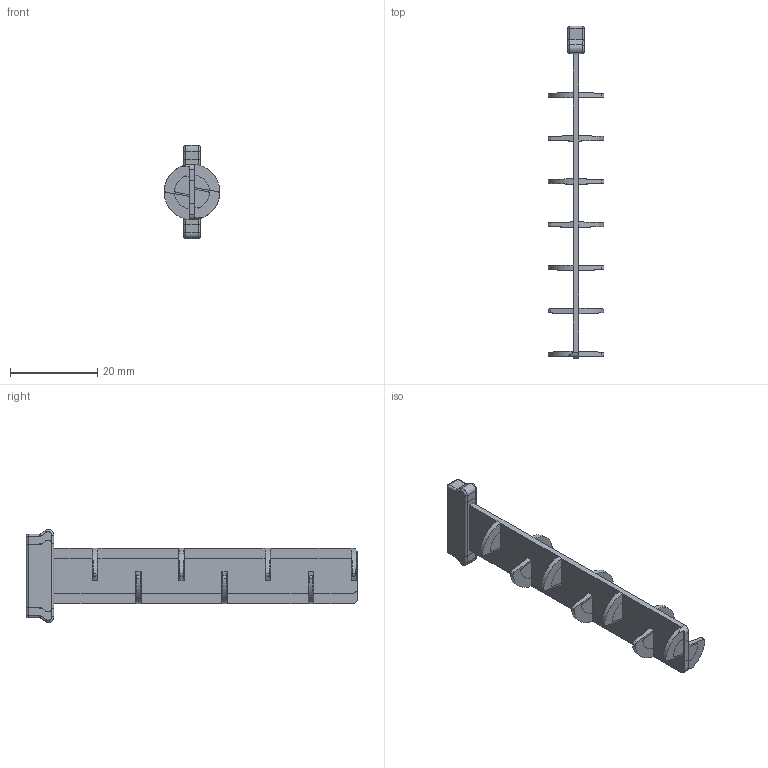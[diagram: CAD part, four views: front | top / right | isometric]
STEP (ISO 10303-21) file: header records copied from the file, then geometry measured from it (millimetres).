
FILE_DESCRIPTION((''),'2;1');
FILE_NAME('ALL_WATER_BAFFLE_ASM','2007-09-24T',('glafferty'),('Pleasant Precision, Inc. (419)675-0556'),'PRO/ENGINEER BY PARAMETRIC TECHNOLOGY CORPORATION, 2006080','PRO/ENGINEER BY PARAMETRIC TECHNOLOGY CORPORATION, 2006080','');
FILE_SCHEMA(('CONFIG_CONTROL_DESIGN'));
Length unit declared in the file: inch
Products named in the file (5): RMC-0080; RMC-0081; RMC-0085; RMC-0086; ALL_WATER_BAFFLE_ASM
Assembly tree (4 placements, depth 2):
  ALL_WATER_BAFFLE_ASM
    RMC-0080
    RMC-0081
    RMC-0085
    RMC-0086
Bounding box: 12.73 x 76.2 x 21.36 mm (x, y, z)
Volume: 6691.5 mm3; surface area: 10672 mm2
Topology: 4 solids, 4 shells, 460 faces, 1128 edges, 680 vertices
Faces by surface type: plane 220, cylinder 192, torus 32, sphere 16
Entity records: 14008 total; most frequent: CARTESIAN_POINT 3470, ORIENTED_EDGE 2256, DIRECTION 2018, EDGE_CURVE 1128, VECTOR 696, LINE 696, VERTEX_POINT 680, AXIS2_PLACEMENT_3D 661
